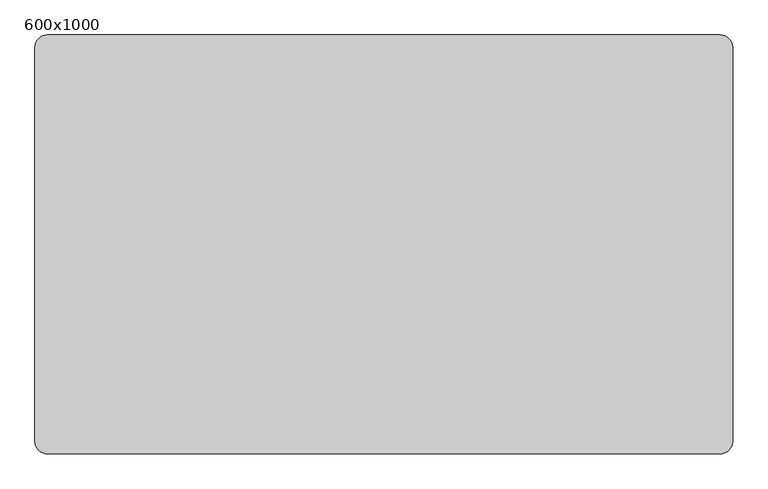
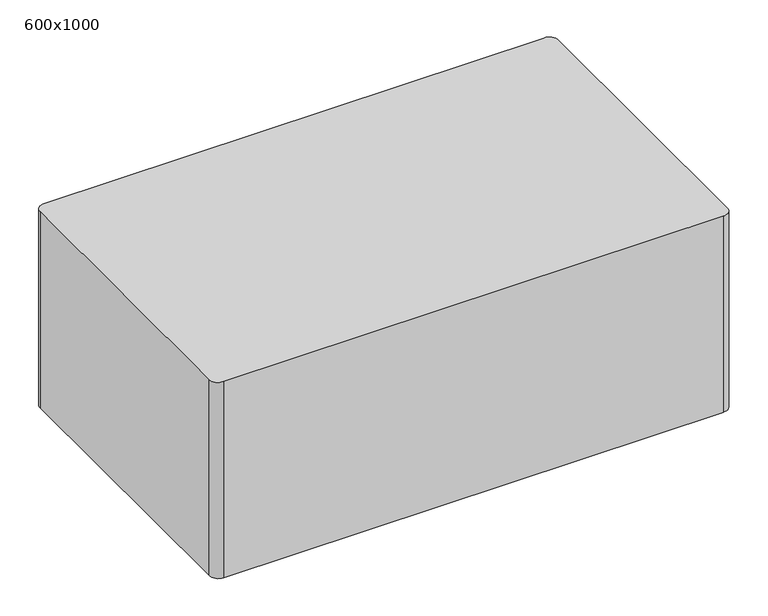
"""IFC4 building model written with IfcOpenShell, lengths in millimetres: furniture geometry, Fu_прикроватный_пуфик_LEG : 600x1000."""

from ifc_helpers import new_model, si_unit, point, frame_2d, origin, origin_with_axes, place, context, project, spatial, polyline, circle_curve, trimmed, segment, composite_curve, outline, extrude, source, transform, mapped, element, save


def furniture_600x1000_2bf2b8fd(model_context):
    return source(origin(), model_context, "Body", "SweptSolid", [
        extrude(outline(composite_curve([segment(polyline([(596.3, -100.0736387), (-367.7, -100.0736387)]), True, "CONTINUOUS"), segment(trimmed(circle_curve(frame_2d((-367.7, -82.0736387)), 18.0), [point((-367.7, -100.0736387))], [point((-385.7, -82.0736387))], False, "CARTESIAN"), True, "CONTINUOUS"), segment(polyline([(-385.7, -82.0736387), (-385.7, 481.9263613)]), True, "CONTINUOUS"), segment(trimmed(circle_curve(frame_2d((-367.7, 481.9263613)), 18.0), [point((-385.7, 481.9263613))], [point((-367.7, 499.9263613))], False, "CARTESIAN"), True, "CONTINUOUS"), segment(polyline([(-367.7, 499.9263613), (596.3, 499.9263613)]), True, "CONTINUOUS"), segment(trimmed(circle_curve(frame_2d((596.3, 481.9263613)), 18.0), [point((596.3, 499.9263613))], [point((614.3, 481.9263613))], False, "CARTESIAN"), True, "CONTINUOUS"), segment(polyline([(614.3, 481.9263613), (614.3, -82.0736387)]), True, "CONTINUOUS"), segment(trimmed(circle_curve(frame_2d((596.3, -82.0736387)), 18.0), [point((614.3, -82.0736387))], [point((596.3, -100.0736387))], False, "CARTESIAN"), True, "CONTINUOUS")], self_intersect=False)), origin_with_axes(), (0.0, 0.0, 1.0), 400.0),
    ])


if __name__ == "__main__":
    model = new_model("IFC4")
    model_context = context("Model", 3, world=origin())
    ifc_project = project(units=[si_unit("LENGTHUNIT", "METRE", prefix="MILLI")], contexts=[model_context])
    site = spatial("IfcSite", under=ifc_project)
    building = spatial("IfcBuilding", under=site)
    placement = place(None, origin())
    furniture_600x1000_shape = furniture_600x1000_2bf2b8fd(model_context)
    element("IfcFurniture", 1, ObjectType="Fu_прикроватный_пуфик_LEG : 600x1000", at=placement, inside=building, context=model_context, shape_type="MappedRepresentation", body=[
        mapped(furniture_600x1000_shape, transform((0.0, 0.0, 0.0), x_axis=(1.0, 0.0, 0.0), y_axis=(0.0, 1.0, 0.0), z_axis=(0.0, 0.0, 1.0))),
    ])
    save(model, "model.ifc")
